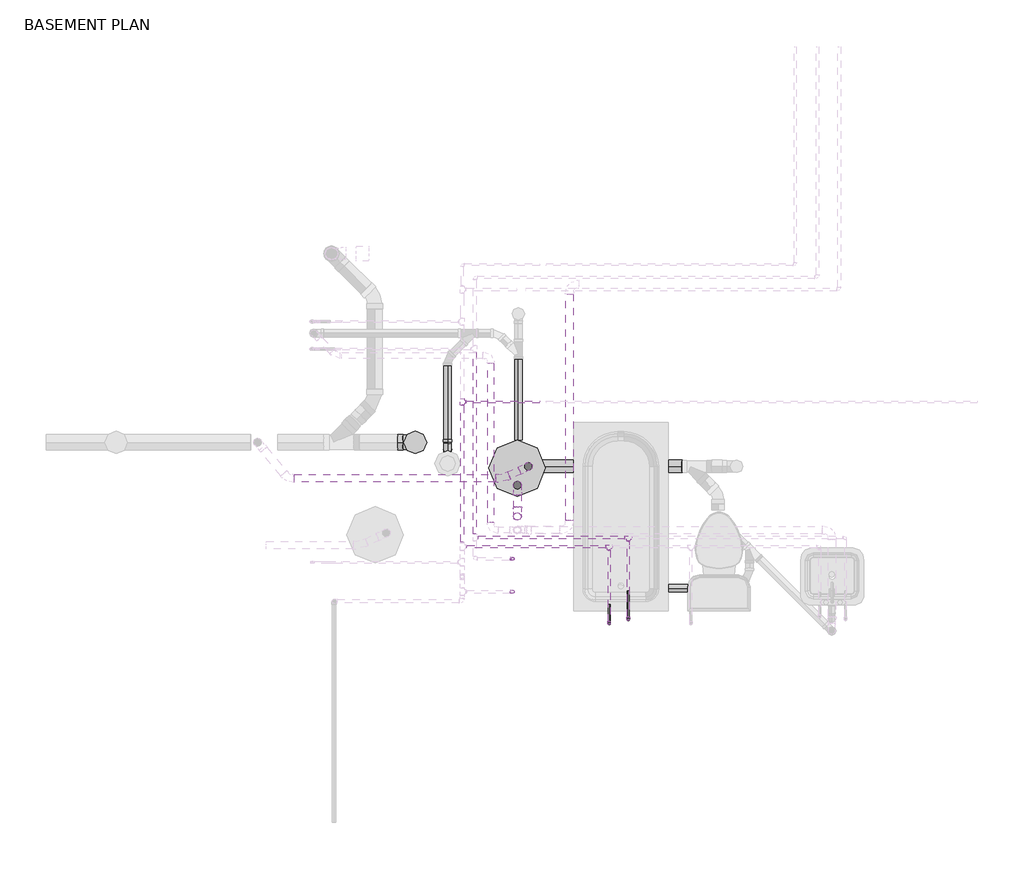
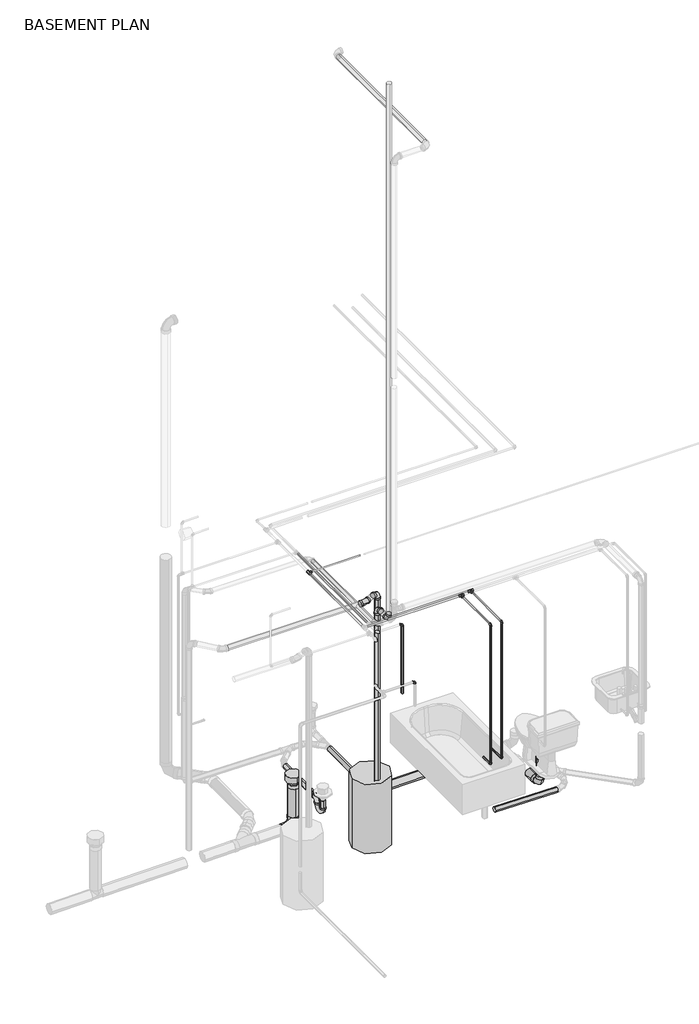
# One storey, part 3 of 6: 28 pipe segments, 21 pipe fittings, 1 proxy.
"""IFC4 building model written with IfcOpenShell, lengths in millimetres."""

from ifc_helpers import new_model, si_unit, point, frame, frame_2d, origin, place, context, project, spatial, circle_curve, trimmed, segment, composite_curve, outline, extrude, transform, mapped, element, save
from components import elv280hv_71b66f3c, bend_pvc_sch_40_dwv_standard_23d7c334, bend_pvc_sch_40_dwv_standard_9345205b, bend_pvc_sch_40_dwv_standard_0e59f3f3, bend_pvc_sch_40_dwv_standard_0393334a, bend_pvc_sch_40_dwv_standard_cf73f651, bend_pvc_sch_40_dwv_standard_edfad06d, pipe_elbow_copper_k_feaaf02c, pipe_elbow_copper_k_aad62f2d, pipe_tee_copper_k_ee363fbf, pipe_transition_copper_k_859ff352, reducer_pvc_sch_40_dwv_standard_9e2ad0bf, reducer_pvc_sch_40_dwv_standard_230e9924, standard_8c31f35f

model = new_model("IFC4")

# Units and contexts
model_context = context("Model", 3, world=origin())
ifc_project = project(units=[si_unit("LENGTHUNIT", "METRE", prefix="MILLI")], contexts=[model_context])

# Site, building, storey
site = spatial("IfcSite", under=ifc_project)
building = spatial("IfcBuilding", under=site)
storey = spatial("IfcBuildingStorey", under=building, Name="BASEMENT PLAN", Elevation=-2743.2)

# Proxy
placement = place(None, origin())
elv280hv_shape = elv280hv_71b66f3c(model_context)
element("IfcBuildingElementProxy", 1, Name="Pump-Sump-Liberty-ELV_Series : ELV280HV", ObjectType="Pump-Sump-Liberty-ELV_Series : ELV280HV", at=placement, inside=storey, context=model_context, shape_type="MappedRepresentation", body=[
    mapped(elv280hv_shape, transform((13055.7813305, 5475.8384917, -3632.2), x_axis=(1.0, 0.0, 0.0), y_axis=(0.0, 1.0, 0.0), z_axis=(0.0, 0.0, 1.0))),
])

# Pipe fittings
bend_pvc_sch_40_dwv_standard_shape = bend_pvc_sch_40_dwv_standard_23d7c334(model_context)
element("IfcPipeFitting", 2, ObjectType="Bend - PVC - Sch 40 - DWV : Standard", at=placement, inside=storey, context=model_context, shape_type="MappedRepresentation", body=[
    mapped(bend_pvc_sch_40_dwv_standard_shape, transform((12232.8047807, 5618.9056862, -3266.4426869), x_axis=(0.9999457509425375, 0.0, 0.010416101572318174), y_axis=(-0.010416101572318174, 0.0, 0.9999457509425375), z_axis=(0.0, -1.0, 0.0))),
])
bend_pvc_sch_40_dwv_standard_2_shape = bend_pvc_sch_40_dwv_standard_9345205b(model_context)
element("IfcPipeFitting", 3, ObjectType="Bend - PVC - Sch 40 - DWV : Standard", at=placement, inside=storey, context=model_context, shape_type="MappedRepresentation", body=[
    mapped(bend_pvc_sch_40_dwv_standard_2_shape, transform((14676.5331398, 4629.1086514, -2974.330201), x_axis=(0.0, -0.9999457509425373, 0.010416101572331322), y_axis=(0.0, 0.010416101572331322, 0.9999457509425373), z_axis=(-1.0, 0.0, 0.0))),
])
bend_pvc_sch_40_dwv_standard_3_shape = bend_pvc_sch_40_dwv_standard_0e59f3f3(model_context)
element("IfcPipeFitting", 4, ObjectType="Bend - PVC - Sch 40 - DWV : Standard", at=placement, inside=storey, context=model_context, shape_type="MappedRepresentation", body=[
    mapped(bend_pvc_sch_40_dwv_standard_3_shape, transform((13056.4098972, 5020.1060788, -533.3879658), x_axis=(0.0, 0.0, -1.0), y_axis=(0.0, 1.0, 0.0), z_axis=(1.0, 0.0, 0.0))),
])
bend_pvc_sch_40_dwv_standard_4_shape = bend_pvc_sch_40_dwv_standard_0393334a(model_context)
element("IfcPipeFitting", 5, ObjectType="Bend - PVC - Sch 40 - DWV : Standard", at=placement, inside=storey, context=model_context, shape_type="MappedRepresentation", body=[
    mapped(bend_pvc_sch_40_dwv_standard_4_shape, transform((13056.4099046, 5272.5058862, -533.4270071), x_axis=(-1.7637045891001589e-06, -1.7637045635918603e-06, 0.9999999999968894), y_axis=(2.759208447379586e-10, -0.9999999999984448, -1.7637045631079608e-06), z_axis=(0.9999999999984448, 2.728101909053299e-10, 1.7637045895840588e-06))),
])
bend_pvc_sch_40_dwv_standard_5_shape = bend_pvc_sch_40_dwv_standard_cf73f651(model_context)
element("IfcPipeFitting", 6, ObjectType="Bend - PVC - Sch 40 - DWV : Standard", at=placement, inside=storey, context=model_context, shape_type="MappedRepresentation", body=[
    mapped(bend_pvc_sch_40_dwv_standard_5_shape, transform((13144.6632199, 5423.789234, -457.1849034), x_axis=(-1.937238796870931e-07, 1.9372386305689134e-07, 0.9999999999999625), y_axis=(-0.9063077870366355, -0.4226182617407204, -9.37022184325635e-08), z_axis=(0.42261826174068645, -0.9063077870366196, 2.5744469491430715e-07))),
])
bend_pvc_sch_40_dwv_standard_6_shape = bend_pvc_sch_40_dwv_standard_edfad06d(model_context)
element("IfcPipeFitting", 7, ObjectType="Bend - PVC - Sch 40 - DWV : Standard", at=placement, inside=storey, context=model_context, shape_type="MappedRepresentation", body=[
    mapped(bend_pvc_sch_40_dwv_standard_6_shape, transform((12937.4812748, 5327.1786843, -457.1849034), x_axis=(0.9999999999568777, 0.0, 9.286796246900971e-06), y_axis=(1.8495204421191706e-10, 0.9999999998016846, -1.9915591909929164e-05), z_axis=(-9.286796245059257e-06, 1.991559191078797e-05, 0.9999999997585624))),
])
pipe_elbow_copper_k_shape = pipe_elbow_copper_k_feaaf02c(model_context)
element("IfcPipeFitting", 8, ObjectType="Pipe Elbow : Copper- K", at=placement, inside=storey, context=model_context, shape_type="MappedRepresentation", body=[
    mapped(pipe_elbow_copper_k_shape, transform((13018.3254798, 4411.6327443, -951.8226445), x_axis=(1.0, 0.0, 0.0), y_axis=(0.0, 0.0, -1.0), z_axis=(0.0, 1.0, 0.0))),
])
element("IfcPipeFitting", 9, ObjectType="Pipe Elbow : Copper- K", at=placement, inside=storey, context=model_context, shape_type="MappedRepresentation", body=[
    mapped(pipe_elbow_copper_k_shape, transform((13018.3254798, 4677.7551356, -372.5523585), x_axis=(1.0, 0.0, 0.0), y_axis=(0.0, 0.0, -1.0), z_axis=(0.0, 1.0, 0.0))),
])
pipe_elbow_copper_k_2_shape = pipe_elbow_copper_k_aad62f2d(model_context)
element("IfcPipeFitting", 10, ObjectType="Pipe Elbow : Copper- K", at=placement, inside=storey, context=model_context, shape_type="MappedRepresentation", body=[
    mapped(pipe_elbow_copper_k_2_shape, transform((13797.1203863, 4155.9493491, -2133.6), x_axis=(0.0, 0.0, -1.0), y_axis=(0.0, 1.0, 0.0), z_axis=(1.0, 0.0, 0.0))),
])
element("IfcPipeFitting", 11, ObjectType="Pipe Elbow : Copper- K", at=placement, inside=storey, context=model_context, shape_type="MappedRepresentation", body=[
    mapped(pipe_elbow_copper_k_2_shape, transform((13951.7754798, 4189.6281655, -2133.6), x_axis=(0.0, 0.0, -1.0), y_axis=(0.0, 1.0, 0.0), z_axis=(1.0, 0.0, 0.0))),
])
element("IfcPipeFitting", 12, ObjectType="Pipe Elbow : Copper- K", at=placement, inside=storey, context=model_context, shape_type="MappedRepresentation", body=[
    mapped(pipe_elbow_copper_k_2_shape, transform((13951.7754798, 4189.6281655, -372.5523585), x_axis=(0.0, 0.0, 1.0), y_axis=(0.0, 1.0, 0.0), z_axis=(-1.0, 0.0, 0.0))),
])
element("IfcPipeFitting", 13, ObjectType="Pipe Elbow : Copper- K", at=placement, inside=storey, context=model_context, shape_type="MappedRepresentation", body=[
    mapped(pipe_elbow_copper_k_2_shape, transform((13797.1203863, 4155.9493491, -334.4523585), x_axis=(0.0, 0.0, 1.0), y_axis=(0.0, 1.0, 0.0), z_axis=(-1.0, 0.0, 0.0))),
])
pipe_tee_copper_k_shape = pipe_tee_copper_k_ee363fbf(model_context)
element("IfcPipeFitting", 14, ObjectType="Pipe Tee : Copper- K", at=placement, inside=storey, context=model_context, shape_type="MappedRepresentation", body=[
    mapped(pipe_tee_copper_k_shape, transform((13951.7754798, 4850.0281655, -372.5523585), x_axis=(-1.0, 0.0, 0.0), y_axis=(0.0, 1.0, 0.0), z_axis=(0.0, 0.0, -1.0))),
])
element("IfcPipeFitting", 15, ObjectType="Pipe Tee : Copper- K", at=placement, inside=storey, context=model_context, shape_type="MappedRepresentation", body=[
    mapped(pipe_tee_copper_k_shape, transform((13797.1203863, 4776.6618491, -334.4523585), x_axis=(-1.0, 0.0, 0.0), y_axis=(0.0, 1.0, 0.0), z_axis=(0.0, 0.0, -1.0))),
])
element("IfcPipeFitting", 16, ObjectType="Pipe Tee : Copper- K", at=placement, inside=storey, context=model_context, shape_type="MappedRepresentation", body=[
    mapped(pipe_tee_copper_k_shape, transform((12611.9254798, 5945.0618491, -334.4523585), x_axis=(0.0, -1.0, 0.0), y_axis=(-1.0, 0.0, 0.0), z_axis=(0.0, 0.0, -1.0))),
])
pipe_transition_copper_k_shape = pipe_transition_copper_k_859ff352(model_context)
element("IfcPipeFitting", 17, ObjectType="Pipe Transition : Copper- K", at=placement, inside=storey, context=model_context, shape_type="MappedRepresentation", body=[
    mapped(pipe_transition_copper_k_shape, transform((13951.7754798, 4823.0406655, -372.5523585), x_axis=(0.0, -1.0, 0.0), y_axis=(1.0, 0.0, 0.0), z_axis=(0.0, 0.0, 1.0))),
])
element("IfcPipeFitting", 18, ObjectType="Pipe Transition : Copper- K", at=placement, inside=storey, context=model_context, shape_type="MappedRepresentation", body=[
    mapped(pipe_transition_copper_k_shape, transform((13797.1203863, 4749.6743491, -334.4523585), x_axis=(0.0, -1.0, 0.0), y_axis=(1.0, 0.0, 0.0), z_axis=(0.0, 0.0, 1.0))),
])
element("IfcPipeFitting", 19, ObjectType="Pipe Transition : Copper- K", at=placement, inside=storey, context=model_context, shape_type="MappedRepresentation", body=[
    mapped(pipe_transition_copper_k_shape, transform((12638.9129798, 5945.0618491, -334.4523585), x_axis=(1.0, 0.0, 0.0), y_axis=(0.0, 1.0, 0.0), z_axis=(0.0, 0.0, 1.0))),
])
reducer_pvc_sch_40_dwv_standard_shape = reducer_pvc_sch_40_dwv_standard_9e2ad0bf(model_context)
element("IfcPipeFitting", 20, ObjectType="Reducer - PVC - Sch 40 - DWV : Standard", at=placement, inside=storey, context=model_context, shape_type="MappedRepresentation", body=[
    mapped(reducer_pvc_sch_40_dwv_standard_shape, transform((12232.8047807, 5618.9056862, -2756.7929688), x_axis=(0.0, 0.0, 1.0), y_axis=(-1.0, 0.0, 0.0), z_axis=(0.0, -1.0, 0.0))),
])
reducer_pvc_sch_40_dwv_standard_2_shape = reducer_pvc_sch_40_dwv_standard_230e9924(model_context)
element("IfcPipeFitting", 21, ObjectType="Reducer - PVC - Sch 40 - DWV : Standard", at=placement, inside=storey, context=model_context, shape_type="MappedRepresentation", body=[
    mapped(reducer_pvc_sch_40_dwv_standard_2_shape, transform((13144.6637017, 5423.7887522, -2994.2084886), x_axis=(0.0, 0.0, 1.0), y_axis=(-1.0, 0.0, 0.0), z_axis=(0.0, -1.0, 0.0))),
])
standard_shape = standard_8c31f35f(model_context)
element("IfcPipeFitting", 22, ObjectType="GES P TRAP PVC Sch 40 - DWV : Standard", at=placement, inside=storey, context=model_context, shape_type="MappedRepresentation", body=[
    mapped(standard_shape, transform((12494.0713934, 5448.3128175, -2962.795389), x_axis=(0.0, 0.0, -1.0), y_axis=(-7.342484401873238e-06, -0.999999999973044, 0.0), z_axis=(-0.999999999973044, 7.342484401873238e-06, 0.0))),
])

# Pipe segments
element("IfcPipeSegment", 23, ObjectType="Cast Iron - SAN/STORM", at=placement, inside=storey, context=model_context, shape_type="SweptSolid", body=[
    extrude(outline(composite_curve([segment(trimmed(circle_curve(frame_2d((12232.8047807, 5618.9056862)), 61.11875), [point((12171.6860307, 5618.9056862))], [point((12232.8047807, 5680.0244362))], False, "CARTESIAN"), True, "CONTINUOUS"), segment(trimmed(circle_curve(frame_2d((12232.8047807, 5618.9056862)), 61.11875), [point((12232.8047807, 5680.0244362))], [point((12293.9235307, 5618.9056862))], False, "CARTESIAN"), True, "CONTINUOUS"), segment(trimmed(circle_curve(frame_2d((12232.8047807, 5618.9056862)), 61.11875), [point((12293.9235307, 5618.9056862))], [point((12232.8047807, 5557.7869362))], False, "CARTESIAN"), True, "CONTINUOUS"), segment(trimmed(circle_curve(frame_2d((12232.8047807, 5618.9056862)), 61.11875), [point((12232.8047807, 5557.7869362))], [point((12171.6860307, 5618.9056862))], False, "CARTESIAN"), True, "CONTINUOUS")], self_intersect=False)), frame((0.0, 0.0, -3123.5676869), z_axis=(0.0, 0.0, 1.0), x_axis=(1.0, 0.0, 0.0)), (0.0, 0.0, 1.0), 366.7747181),
])
element("IfcPipeSegment", 24, ObjectType="Cast Iron - SAN/STORM", at=placement, inside=storey, context=model_context, shape_type="SweptSolid", body=[
    extrude(outline(composite_curve([segment(trimmed(circle_curve(frame_2d((0.0, -30.1625)), 30.1625), [point((-30.1625, -30.1625))], [point((0.0, 0.0))], False, "CARTESIAN"), True, "CONTINUOUS"), segment(trimmed(circle_curve(frame_2d((0.0, -30.1625)), 30.1625), [point((0.0, 0.0))], [point((30.1625, -30.1625))], False, "CARTESIAN"), True, "CONTINUOUS"), segment(trimmed(circle_curve(frame_2d((0.0, -30.1625)), 30.1625), [point((30.1625, -30.1625))], [point((0.0, -60.325))], False, "CARTESIAN"), True, "CONTINUOUS"), segment(trimmed(circle_curve(frame_2d((0.0, -30.1625)), 30.1625), [point((0.0, -60.325))], [point((-30.1625, -30.1625))], False, "CARTESIAN"), True, "CONTINUOUS")], self_intersect=False)), frame((13065.0696207, 5637.6330119, -3006.5032674), z_axis=(0.0, 0.9999457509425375, 0.010416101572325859), x_axis=(1.0, 0.0, 0.0)), (0.0, 0.0, 1.0), 653.0427747),
])
element("IfcPipeSegment", 25, ObjectType="Cast Iron - SAN/STORM", at=placement, inside=storey, context=model_context, shape_type="SweptSolid", body=[
    extrude(outline(composite_curve([segment(trimmed(circle_curve(frame_2d((0.0, 50.403125)), 50.403125), [point((-50.403125, 50.403125))], [point((0.0, 100.80625))], False, "CARTESIAN"), True, "CONTINUOUS"), segment(trimmed(circle_curve(frame_2d((0.0, 50.403125)), 50.403125), [point((0.0, 100.80625))], [point((50.403125, 50.403125))], False, "CARTESIAN"), True, "CONTINUOUS"), segment(trimmed(circle_curve(frame_2d((0.0, 50.403125)), 50.403125), [point((50.403125, 50.403125))], [point((0.0, 0.0))], False, "CARTESIAN"), True, "CONTINUOUS"), segment(trimmed(circle_curve(frame_2d((0.0, 50.403125)), 50.403125), [point((0.0, 0.0))], [point((-50.403125, 50.403125))], False, "CARTESIAN"), True, "CONTINUOUS")], self_intersect=False)), frame((14676.5331398, 4866.797313, -3027.211984), z_axis=(0.0, -0.9999457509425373, 0.010416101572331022), x_axis=(1.0, 0.0, 0.0)), (0.0, 0.0, 1.0), 122.3263892),
])
element("IfcPipeSegment", 26, ObjectType="Cast Iron - SAN/STORM", at=placement, inside=storey, context=model_context, shape_type="SweptSolid", body=[
    extrude(outline(composite_curve([segment(trimmed(circle_curve(frame_2d((0.0, 50.4031249)), 50.403125), [point((-50.403125, 50.4031247))], [point((-3e-07, 100.80625))], False, "CARTESIAN"), True, "CONTINUOUS"), segment(trimmed(circle_curve(frame_2d((0.0, 50.4031249)), 50.403125), [point((-3e-07, 100.80625))], [point((50.403125, 50.4031252))], False, "CARTESIAN"), True, "CONTINUOUS"), segment(trimmed(circle_curve(frame_2d((0.0, 50.4031249)), 50.403125), [point((50.403125, 50.4031252))], [point((2e-07, 0.0))], False, "CARTESIAN"), True, "CONTINUOUS"), segment(trimmed(circle_curve(frame_2d((0.0, 50.4031249)), 50.403125), [point((2e-07, 0.0))], [point((-50.403125, 50.4031247))], False, "CARTESIAN"), True, "CONTINUOUS")], self_intersect=False)), frame((14676.5331398, 4578.7055265, -2858.4317318), z_axis=(-0.00014245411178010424, -3.434001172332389e-05, 0.9999999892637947), x_axis=(0.9999999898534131, -4.891875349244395e-09, 0.00014245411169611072)), (0.0, 0.0, 1.0), 220.686813),
])
element("IfcPipeSegment", 27, ObjectType="Cast Iron - SAN/STORM", at=placement, inside=storey, context=model_context, shape_type="SweptSolid", body=[
    extrude(outline(composite_curve([segment(trimmed(circle_curve(frame_2d((0.0, -30.1625)), 30.1625), [point((0.0, -60.325))], [point((-30.1625, -30.1625))], False, "CARTESIAN"), True, "CONTINUOUS"), segment(trimmed(circle_curve(frame_2d((0.0, -30.1625)), 30.1625), [point((-30.1625, -30.1625))], [point((0.0, 0.0))], False, "CARTESIAN"), True, "CONTINUOUS"), segment(trimmed(circle_curve(frame_2d((0.0, -30.1625)), 30.1625), [point((0.0, 0.0))], [point((30.1625, -30.1625))], False, "CARTESIAN"), True, "CONTINUOUS"), segment(trimmed(circle_curve(frame_2d((0.0, -30.1625)), 30.1625), [point((30.1625, -30.1625))], [point((0.0, -60.325))], False, "CARTESIAN"), True, "CONTINUOUS")], self_intersect=False)), frame((14768.9046128, 4470.9160969, -2970.9991231), z_axis=(-0.9999500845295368, 0.0, 0.009991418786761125), x_axis=(0.009991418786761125, 0.0, 0.9999500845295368)), (0.0, 0.0, 1.0), 763.091778),
])
element("IfcPipeSegment", 28, ObjectType="Cast Iron - SAN/STORM", at=placement, inside=storey, context=model_context, shape_type="SweptSolid", body=[
    extrude(outline(composite_curve([segment(trimmed(circle_curve(frame_2d((0.0, 30.1625)), 30.1625), [point((-30.1625001, 30.1625))], [point((0.0, 60.325))], False, "CARTESIAN"), True, "CONTINUOUS"), segment(trimmed(circle_curve(frame_2d((0.0, 30.1625)), 30.1625), [point((0.0, 60.325))], [point((30.1625, 30.1625))], False, "CARTESIAN"), True, "CONTINUOUS"), segment(trimmed(circle_curve(frame_2d((0.0, 30.1625)), 30.1625), [point((30.1625, 30.1625))], [point((0.0, 0.0))], False, "CARTESIAN"), True, "CONTINUOUS"), segment(trimmed(circle_curve(frame_2d((0.0, 30.1625)), 30.1625), [point((0.0, 0.0))], [point((-30.1625001, 30.1625))], False, "CARTESIAN"), True, "CONTINUOUS")], self_intersect=False)), frame((12494.0713934, 5418.1503175, -3010.420389), z_axis=(-0.00015668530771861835, 0.0, 0.9999999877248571), x_axis=(0.9999999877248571, 0.0, 0.00015668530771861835)), (0.0, 0.0, 1.0), 92.5953902),
])
element("IfcPipeSegment", 29, ObjectType="Cast Iron - SAN/STORM", at=placement, inside=storey, context=model_context, shape_type="SweptSolid", body=[
    extrude(outline(composite_curve([segment(trimmed(circle_curve(frame_2d((0.0, 30.1625)), 30.1625), [point((0.0, 60.325))], [point((30.1625, 30.1625))], False, "CARTESIAN"), True, "CONTINUOUS"), segment(trimmed(circle_curve(frame_2d((0.0, 30.1625)), 30.1625), [point((30.1625, 30.1625))], [point((0.0, 0.0))], False, "CARTESIAN"), True, "CONTINUOUS"), segment(trimmed(circle_curve(frame_2d((0.0, 30.1625)), 30.1625), [point((0.0, 0.0))], [point((-30.1625, 30.1625))], False, "CARTESIAN"), True, "CONTINUOUS"), segment(trimmed(circle_curve(frame_2d((0.0, 30.1625)), 30.1625), [point((-30.1625, 30.1625))], [point((0.0, 60.325))], False, "CARTESIAN"), True, "CONTINUOUS")], self_intersect=False)), frame((12463.9103038, 5640.4005389, -2962.795389), z_axis=(7.34248438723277e-06, 0.999999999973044, 0.0), x_axis=(0.0, 0.0, 1.0)), (0.0, 0.0, 1.0), 597.9937716),
])
element("IfcPipeSegment", 30, ObjectType="Cast Iron - SAN/STORM", at=placement, inside=storey, context=model_context, shape_type="SweptSolid", body=[
    extrude(outline(composite_curve([segment(trimmed(circle_curve(frame_2d((0.0, -30.1625)), 30.1625), [point((-30.1624999, -30.1625))], [point((0.0, 0.0))], False, "CARTESIAN"), True, "CONTINUOUS"), segment(trimmed(circle_curve(frame_2d((0.0, -30.1625)), 30.1625), [point((0.0, 0.0))], [point((30.1625001, -30.1625))], False, "CARTESIAN"), True, "CONTINUOUS"), segment(trimmed(circle_curve(frame_2d((0.0, -30.1625)), 30.1625), [point((30.1625001, -30.1625))], [point((0.0, -60.325))], False, "CARTESIAN"), True, "CONTINUOUS"), segment(trimmed(circle_curve(frame_2d((0.0, -30.1625)), 30.1625), [point((0.0, -60.325))], [point((-30.1624999, -30.1625))], False, "CARTESIAN"), True, "CONTINUOUS")], self_intersect=False)), frame((12989.2767616, 5351.3313249, -487.3474034), z_axis=(0.9063077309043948, 0.42261838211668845, 0.0), x_axis=(0.42261838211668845, -0.9063077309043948, 0.0)), (0.0, 0.0, 1.0), 93.6497927),
])
element("IfcPipeSegment", 31, ObjectType="Cast Iron - SAN/STORM", at=placement, inside=storey, context=model_context, shape_type="SweptSolid", body=[
    extrude(outline(composite_curve([segment(trimmed(circle_curve(frame_2d((0.0, 30.1625)), 30.1625), [point((-30.1625, 30.1625))], [point((0.0, 60.325))], False, "CARTESIAN"), True, "CONTINUOUS"), segment(trimmed(circle_curve(frame_2d((0.0, 30.1625)), 30.1625), [point((0.0, 60.325))], [point((30.1625, 30.1625))], False, "CARTESIAN"), True, "CONTINUOUS"), segment(trimmed(circle_curve(frame_2d((0.0, 30.1625)), 30.1625), [point((30.1625, 30.1625))], [point((0.0, 0.0))], False, "CARTESIAN"), True, "CONTINUOUS"), segment(trimmed(circle_curve(frame_2d((0.0, 30.1625)), 30.1625), [point((0.0, 0.0))], [point((-30.1625, 30.1625))], False, "CARTESIAN"), True, "CONTINUOUS")], self_intersect=False)), frame((13144.6637017, 5393.6262522, -2944.2212828), z_axis=(-1.9372387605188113e-07, 1.9372386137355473e-07, 0.9999999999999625), x_axis=(0.9999999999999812, 0.0, 1.937238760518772e-07)), (0.0, 0.0, 1.0), 2409.2361853),
])
element("IfcPipeSegment", 32, ObjectType="Cast Iron - SAN/STORM", at=placement, inside=storey, context=model_context, shape_type="SweptSolid", body=[
    extrude(outline(composite_curve([segment(trimmed(circle_curve(frame_2d((0.0, -50.403125)), 50.403125), [point((0.0, 0.0))], [point((50.4031249, -50.403125))], False, "CARTESIAN"), True, "CONTINUOUS"), segment(trimmed(circle_curve(frame_2d((0.0, -50.403125)), 50.403125), [point((50.4031249, -50.403125))], [point((0.0, -100.80625))], False, "CARTESIAN"), True, "CONTINUOUS"), segment(trimmed(circle_curve(frame_2d((0.0, -50.403125)), 50.403125), [point((0.0, -100.80625))], [point((-50.403125, -50.403125))], False, "CARTESIAN"), True, "CONTINUOUS"), segment(trimmed(circle_curve(frame_2d((0.0, -50.403125)), 50.403125), [point((-50.403125, -50.403125))], [point((0.0, 0.0))], False, "CARTESIAN"), True, "CONTINUOUS")], self_intersect=False)), frame((13261.8329498, 5474.2019598, -2994.6864241), z_axis=(0.9999487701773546, 0.0, 0.010122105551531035), x_axis=(0.010122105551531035, 0.0, -0.9999487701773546)), (0.0, 0.0, 1.0), 1123.4600431),
])
element("IfcPipeSegment", 33, ObjectType="Cast Iron - SAN/STORM", at=placement, inside=storey, context=model_context, shape_type="SweptSolid", body=[
    extrude(outline(composite_curve([segment(trimmed(circle_curve(frame_2d((0.0, -30.1625)), 30.1625), [point((-30.1625, -30.1625))], [point((0.0, 0.0))], False, "CARTESIAN"), True, "CONTINUOUS"), segment(trimmed(circle_curve(frame_2d((0.0, -30.1625)), 30.1625), [point((0.0, 0.0))], [point((30.1625, -30.1625))], False, "CARTESIAN"), True, "CONTINUOUS"), segment(trimmed(circle_curve(frame_2d((0.0, -30.1625)), 30.1625), [point((30.1625, -30.1625))], [point((0.0, -60.325))], False, "CARTESIAN"), True, "CONTINUOUS"), segment(trimmed(circle_curve(frame_2d((0.0, -30.1625)), 30.1625), [point((0.0, -60.325))], [point((-30.1625, -30.1625))], False, "CARTESIAN"), True, "CONTINUOUS")], self_intersect=False)), frame((11257.7160834, 5327.1786843, -487.3620134), z_axis=(0.9999999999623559, 0.0, 8.676883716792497e-06), x_axis=(0.0, -1.0, 0.0)), (0.0, 0.0, 1.0), 1622.6154532),
])
element("IfcPipeSegment", 34, ObjectType="Copper", at=placement, inside=storey, context=model_context, shape_type="SweptSolid", body=[
    extrude(outline(composite_curve([segment(trimmed(circle_curve(frame_2d((13018.3254798, 4677.7551356)), 11.1125), [point((13007.2129798, 4677.7551356))], [point((13018.3254798, 4688.8676356))], False, "CARTESIAN"), True, "CONTINUOUS"), segment(trimmed(circle_curve(frame_2d((13018.3254798, 4677.7551356)), 11.1125), [point((13018.3254798, 4688.8676356))], [point((13029.4379798, 4677.7551356))], False, "CARTESIAN"), True, "CONTINUOUS"), segment(trimmed(circle_curve(frame_2d((13018.3254798, 4677.7551356)), 11.1125), [point((13029.4379798, 4677.7551356))], [point((13018.3254798, 4666.6426356))], False, "CARTESIAN"), True, "CONTINUOUS"), segment(trimmed(circle_curve(frame_2d((13018.3254798, 4677.7551356)), 11.1125), [point((13018.3254798, 4666.6426356))], [point((13007.2129798, 4677.7551356))], False, "CARTESIAN"), True, "CONTINUOUS")], self_intersect=False)), frame((0.0, 0.0, -1261.385253), z_axis=(0.0, 0.0, 1.0), x_axis=(1.0, 0.0, 0.0)), (0.0, 0.0, 1.0), 868.1953945),
])
element("IfcPipeSegment", 35, ObjectType="Copper", at=placement, inside=storey, context=model_context, shape_type="SweptSolid", body=[
    extrude(outline(composite_curve([segment(trimmed(circle_curve(frame_2d((-334.4523585, 13797.1203863)), 7.9375), [point((-334.4523585, 13789.1828863))], [point((-342.3898585, 13797.1203863))], False, "CARTESIAN"), True, "CONTINUOUS"), segment(trimmed(circle_curve(frame_2d((-334.4523585, 13797.1203863)), 7.9375), [point((-342.3898585, 13797.1203863))], [point((-334.4523585, 13805.0578863))], False, "CARTESIAN"), True, "CONTINUOUS"), segment(trimmed(circle_curve(frame_2d((-334.4523585, 13797.1203863)), 7.9375), [point((-334.4523585, 13805.0578863))], [point((-326.5148585, 13797.1203863))], False, "CARTESIAN"), True, "CONTINUOUS"), segment(trimmed(circle_curve(frame_2d((-334.4523585, 13797.1203863)), 7.9375), [point((-326.5148585, 13797.1203863))], [point((-334.4523585, 13789.1828863))], False, "CARTESIAN"), True, "CONTINUOUS")], self_intersect=False)), frame((0.0, 4173.4118491, 0.0), z_axis=(0.0, 1.0, 0.0), x_axis=(0.0, 0.0, 1.0)), (0.0, 0.0, 1.0), 570.70625),
])
element("IfcPipeSegment", 36, ObjectType="Copper", at=placement, inside=storey, context=model_context, shape_type="SweptSolid", body=[
    extrude(outline(composite_curve([segment(trimmed(circle_curve(frame_2d((-2133.6, 13797.1203863)), 7.9375), [point((-2133.6, 13805.0578863))], [point((-2125.6625, 13797.1203863))], False, "CARTESIAN"), True, "CONTINUOUS"), segment(trimmed(circle_curve(frame_2d((-2133.6, 13797.1203863)), 7.9375), [point((-2125.6625, 13797.1203863))], [point((-2133.6, 13789.1828863))], False, "CARTESIAN"), True, "CONTINUOUS"), segment(trimmed(circle_curve(frame_2d((-2133.6, 13797.1203863)), 7.9375), [point((-2133.6, 13789.1828863))], [point((-2141.5375, 13797.1203863))], False, "CARTESIAN"), True, "CONTINUOUS"), segment(trimmed(circle_curve(frame_2d((-2133.6, 13797.1203863)), 7.9375), [point((-2141.5375, 13797.1203863))], [point((-2133.6, 13805.0578863))], False, "CARTESIAN"), True, "CONTINUOUS")], self_intersect=False)), frame((0.0, 4173.4118491, 0.0), z_axis=(0.0, 1.0, 0.0), x_axis=(0.0, 0.0, 1.0)), (0.0, 0.0, 1.0), 134.9375),
])
element("IfcPipeSegment", 37, ObjectType="Copper", at=placement, inside=storey, context=model_context, shape_type="SweptSolid", body=[
    extrude(outline(composite_curve([segment(trimmed(circle_curve(frame_2d((13797.1203863, 4155.9493491)), 7.9375), [point((13805.0578863, 4155.9493491))], [point((13797.1203863, 4148.0118491))], False, "CARTESIAN"), True, "CONTINUOUS"), segment(trimmed(circle_curve(frame_2d((13797.1203863, 4155.9493491)), 7.9375), [point((13797.1203863, 4148.0118491))], [point((13789.1828863, 4155.9493491))], False, "CARTESIAN"), True, "CONTINUOUS"), segment(trimmed(circle_curve(frame_2d((13797.1203863, 4155.9493491)), 7.9375), [point((13789.1828863, 4155.9493491))], [point((13797.1203863, 4163.8868491))], False, "CARTESIAN"), True, "CONTINUOUS"), segment(trimmed(circle_curve(frame_2d((13797.1203863, 4155.9493491)), 7.9375), [point((13797.1203863, 4163.8868491))], [point((13805.0578863, 4155.9493491))], False, "CARTESIAN"), True, "CONTINUOUS")], self_intersect=False)), frame((0.0, 0.0, -2116.1375), z_axis=(0.0, 0.0, 1.0), x_axis=(1.0, 0.0, 0.0)), (0.0, 0.0, 1.0), 1764.2226415),
])
element("IfcPipeSegment", 38, ObjectType="Copper", at=placement, inside=storey, context=model_context, shape_type="SweptSolid", body=[
    extrude(outline(composite_curve([segment(trimmed(circle_curve(frame_2d((-372.5523585, 13951.7754798)), 7.9375), [point((-372.5523585, 13943.8379798))], [point((-380.4898585, 13951.7754798))], False, "CARTESIAN"), True, "CONTINUOUS"), segment(trimmed(circle_curve(frame_2d((-372.5523585, 13951.7754798)), 7.9375), [point((-380.4898585, 13951.7754798))], [point((-372.5523585, 13959.7129798))], False, "CARTESIAN"), True, "CONTINUOUS"), segment(trimmed(circle_curve(frame_2d((-372.5523585, 13951.7754798)), 7.9375), [point((-372.5523585, 13959.7129798))], [point((-364.6148585, 13951.7754798))], False, "CARTESIAN"), True, "CONTINUOUS"), segment(trimmed(circle_curve(frame_2d((-372.5523585, 13951.7754798)), 7.9375), [point((-364.6148585, 13951.7754798))], [point((-372.5523585, 13943.8379798))], False, "CARTESIAN"), True, "CONTINUOUS")], self_intersect=False)), frame((0.0, 4207.0906655, 0.0), z_axis=(0.0, 1.0, 0.0), x_axis=(0.0, 0.0, 1.0)), (0.0, 0.0, 1.0), 610.39375),
])
element("IfcPipeSegment", 39, ObjectType="Copper", at=placement, inside=storey, context=model_context, shape_type="SweptSolid", body=[
    extrude(outline(composite_curve([segment(trimmed(circle_curve(frame_2d((-2133.6, 13951.7754798)), 7.9375), [point((-2133.6, 13959.7129798))], [point((-2125.6625, 13951.7754798))], False, "CARTESIAN"), True, "CONTINUOUS"), segment(trimmed(circle_curve(frame_2d((-2133.6, 13951.7754798)), 7.9375), [point((-2125.6625, 13951.7754798))], [point((-2133.6, 13943.8379798))], False, "CARTESIAN"), True, "CONTINUOUS"), segment(trimmed(circle_curve(frame_2d((-2133.6, 13951.7754798)), 7.9375), [point((-2133.6, 13943.8379798))], [point((-2141.5375, 13951.7754798))], False, "CARTESIAN"), True, "CONTINUOUS"), segment(trimmed(circle_curve(frame_2d((-2133.6, 13951.7754798)), 7.9375), [point((-2141.5375, 13951.7754798))], [point((-2133.6, 13959.7129798))], False, "CARTESIAN"), True, "CONTINUOUS")], self_intersect=False)), frame((0.0, 4207.0906655, 0.0), z_axis=(0.0, 1.0, 0.0), x_axis=(0.0, 0.0, 1.0)), (0.0, 0.0, 1.0), 211.1375),
])
element("IfcPipeSegment", 40, ObjectType="Copper", at=placement, inside=storey, context=model_context, shape_type="SweptSolid", body=[
    extrude(outline(composite_curve([segment(trimmed(circle_curve(frame_2d((13951.7754798, 4189.6281655)), 7.9375), [point((13959.7129798, 4189.6281655))], [point((13951.7754798, 4181.6906655))], False, "CARTESIAN"), True, "CONTINUOUS"), segment(trimmed(circle_curve(frame_2d((13951.7754798, 4189.6281655)), 7.9375), [point((13951.7754798, 4181.6906655))], [point((13943.8379798, 4189.6281655))], False, "CARTESIAN"), True, "CONTINUOUS"), segment(trimmed(circle_curve(frame_2d((13951.7754798, 4189.6281655)), 7.9375), [point((13943.8379798, 4189.6281655))], [point((13951.7754798, 4197.5656655))], False, "CARTESIAN"), True, "CONTINUOUS"), segment(trimmed(circle_curve(frame_2d((13951.7754798, 4189.6281655)), 7.9375), [point((13951.7754798, 4197.5656655))], [point((13959.7129798, 4189.6281655))], False, "CARTESIAN"), True, "CONTINUOUS")], self_intersect=False)), frame((0.0, 0.0, -2116.1375), z_axis=(0.0, 0.0, 1.0), x_axis=(1.0, 0.0, 0.0)), (0.0, 0.0, 1.0), 1726.1226415),
])
element("IfcPipeSegment", 41, ObjectType="Copper", at=placement, inside=storey, context=model_context, shape_type="SweptSolid", body=[
    extrude(outline(composite_curve([segment(trimmed(circle_curve(frame_2d((4850.0281655, -372.5523585)), 11.1125), [point((4838.9156655, -372.5523585))], [point((4850.0281655, -361.4398585))], False, "CARTESIAN"), True, "CONTINUOUS"), segment(trimmed(circle_curve(frame_2d((4850.0281655, -372.5523585)), 11.1125), [point((4850.0281655, -361.4398585))], [point((4861.1406655, -372.5523585))], False, "CARTESIAN"), True, "CONTINUOUS"), segment(trimmed(circle_curve(frame_2d((4850.0281655, -372.5523585)), 11.1125), [point((4861.1406655, -372.5523585))], [point((4850.0281655, -383.6648585))], False, "CARTESIAN"), True, "CONTINUOUS"), segment(trimmed(circle_curve(frame_2d((4850.0281655, -372.5523585)), 11.1125), [point((4850.0281655, -383.6648585))], [point((4838.9156655, -372.5523585))], False, "CARTESIAN"), True, "CONTINUOUS")], self_intersect=False)), frame((12740.5129798, 0.0, 0.0), z_axis=(1.0, 0.0, 0.0), x_axis=(0.0, 1.0, 0.0)), (0.0, 0.0, 1.0), 1184.275),
])
element("IfcPipeSegment", 42, ObjectType="Copper", at=placement, inside=storey, context=model_context, shape_type="SweptSolid", body=[
    extrude(outline(composite_curve([segment(trimmed(circle_curve(frame_2d((4776.6618491, -334.4523585)), 11.1125), [point((4765.5493491, -334.4523585))], [point((4776.6618491, -323.3398585))], False, "CARTESIAN"), True, "CONTINUOUS"), segment(trimmed(circle_curve(frame_2d((4776.6618491, -334.4523585)), 11.1125), [point((4776.6618491, -323.3398585))], [point((4787.7743491, -334.4523585))], False, "CARTESIAN"), True, "CONTINUOUS"), segment(trimmed(circle_curve(frame_2d((4776.6618491, -334.4523585)), 11.1125), [point((4787.7743491, -334.4523585))], [point((4776.6618491, -345.5648585))], False, "CARTESIAN"), True, "CONTINUOUS"), segment(trimmed(circle_curve(frame_2d((4776.6618491, -334.4523585)), 11.1125), [point((4776.6618491, -345.5648585))], [point((4765.5493491, -334.4523585))], False, "CARTESIAN"), True, "CONTINUOUS")], self_intersect=False)), frame((12649.2317298, 0.0, 0.0), z_axis=(1.0, 0.0, 0.0), x_axis=(0.0, 1.0, 0.0)), (0.0, 0.0, 1.0), 1120.9011565),
])
element("IfcPipeSegment", 43, ObjectType="Copper", at=placement, inside=storey, context=model_context, shape_type="SweptSolid", body=[
    extrude(outline(composite_curve([segment(trimmed(circle_curve(frame_2d((-372.5523585, 12713.5254798)), 11.1125), [point((-372.5523585, 12724.6379798))], [point((-361.4398585, 12713.5254798))], False, "CARTESIAN"), True, "CONTINUOUS"), segment(trimmed(circle_curve(frame_2d((-372.5523585, 12713.5254798)), 11.1125), [point((-361.4398585, 12713.5254798))], [point((-372.5523585, 12702.4129798))], False, "CARTESIAN"), True, "CONTINUOUS"), segment(trimmed(circle_curve(frame_2d((-372.5523585, 12713.5254798)), 11.1125), [point((-372.5523585, 12702.4129798))], [point((-383.6648585, 12713.5254798))], False, "CARTESIAN"), True, "CONTINUOUS"), segment(trimmed(circle_curve(frame_2d((-372.5523585, 12713.5254798)), 11.1125), [point((-383.6648585, 12713.5254798))], [point((-372.5523585, 12724.6379798))], False, "CARTESIAN"), True, "CONTINUOUS")], self_intersect=False)), frame((0.0, 4877.0156655, 0.0), z_axis=(0.0, 1.0, 0.0), x_axis=(0.0, 0.0, 1.0)), (0.0, 0.0, 1.0), 1469.0923418),
])
element("IfcPipeSegment", 44, ObjectType="Copper", at=placement, inside=storey, context=model_context, shape_type="SweptSolid", body=[
    extrude(outline(composite_curve([segment(trimmed(circle_curve(frame_2d((-334.4523585, 12611.9254798)), 11.1125), [point((-334.4523585, 12623.0379798))], [point((-323.3398585, 12611.9254798))], False, "CARTESIAN"), True, "CONTINUOUS"), segment(trimmed(circle_curve(frame_2d((-334.4523585, 12611.9254798)), 11.1125), [point((-323.3398585, 12611.9254798))], [point((-334.4523585, 12600.8129798))], False, "CARTESIAN"), True, "CONTINUOUS"), segment(trimmed(circle_curve(frame_2d((-334.4523585, 12611.9254798)), 11.1125), [point((-334.4523585, 12600.8129798))], [point((-345.5648585, 12611.9254798))], False, "CARTESIAN"), True, "CONTINUOUS"), segment(trimmed(circle_curve(frame_2d((-334.4523585, 12611.9254798)), 11.1125), [point((-345.5648585, 12611.9254798))], [point((-334.4523585, 12623.0379798))], False, "CARTESIAN"), True, "CONTINUOUS")], self_intersect=False)), frame((0.0, 4813.9680991, 0.0), z_axis=(0.0, 1.0, 0.0), x_axis=(0.0, 0.0, 1.0)), (0.0, 0.0, 1.0), 1104.10625),
])
element("IfcPipeSegment", 45, ObjectType="Copper", at=placement, inside=storey, context=model_context, shape_type="SweptSolid", body=[
    extrude(outline(composite_curve([segment(trimmed(circle_curve(frame_2d((5945.0618491, -334.4523585)), 7.9375), [point((5937.1243491, -334.4523585))], [point((5945.0618491, -326.5148585))], False, "CARTESIAN"), True, "CONTINUOUS"), segment(trimmed(circle_curve(frame_2d((5945.0618491, -334.4523585)), 7.9375), [point((5945.0618491, -326.5148585))], [point((5952.9993491, -334.4523585))], False, "CARTESIAN"), True, "CONTINUOUS"), segment(trimmed(circle_curve(frame_2d((5945.0618491, -334.4523585)), 7.9375), [point((5952.9993491, -334.4523585))], [point((5945.0618491, -342.3898585))], False, "CARTESIAN"), True, "CONTINUOUS"), segment(trimmed(circle_curve(frame_2d((5945.0618491, -334.4523585)), 7.9375), [point((5945.0618491, -342.3898585))], [point((5937.1243491, -334.4523585))], False, "CARTESIAN"), True, "CONTINUOUS")], self_intersect=False)), frame((12644.4692298, 0.0, 0.0), z_axis=(1.0, 0.0, 0.0), x_axis=(0.0, 1.0, 0.0)), (0.0, 0.0, 1.0), 591.17632),
])
element("IfcPipeSegment", 46, ObjectType="PVC - VENT", at=placement, inside=storey, context=model_context, shape_type="SweptSolid", body=[
    extrude(outline(composite_curve([segment(trimmed(circle_curve(frame_2d((0.0, 30.1625)), 30.1625), [point((-30.1625, 30.1625))], [point((0.0, 60.325))], False, "CARTESIAN"), True, "CONTINUOUS"), segment(trimmed(circle_curve(frame_2d((0.0, 30.1625)), 30.1625), [point((0.0, 60.325))], [point((30.1625, 30.1625))], False, "CARTESIAN"), True, "CONTINUOUS"), segment(trimmed(circle_curve(frame_2d((0.0, 30.1625)), 30.1625), [point((30.1625, 30.1625))], [point((0.0, 0.0))], False, "CARTESIAN"), True, "CONTINUOUS"), segment(trimmed(circle_curve(frame_2d((0.0, 30.1625)), 30.1625), [point((0.0, 0.0))], [point((-30.1625, 30.1625))], False, "CARTESIAN"), True, "CONTINUOUS")], self_intersect=False)), frame((13056.4143844, 5242.347866, -3073.4058569), z_axis=(-1.7637045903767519e-06, -1.7637045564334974e-06, 0.9999999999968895), x_axis=(0.9999999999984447, -3.1121771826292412e-12, 1.7637045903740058e-06)), (0.0, 0.0, 1.0), 2462.1785966),
])
element("IfcPipeSegment", 47, ObjectType="PVC - VENT", at=placement, inside=storey, context=model_context, shape_type="SweptSolid", body=[
    extrude(outline(composite_curve([segment(trimmed(circle_curve(frame_2d((0.0, -30.1625)), 30.1625), [point((0.0, -60.325))], [point((-30.1625, -30.1625))], False, "CARTESIAN"), True, "CONTINUOUS"), segment(trimmed(circle_curve(frame_2d((0.0, -30.1625)), 30.1625), [point((-30.1625, -30.1625))], [point((0.0, 0.0))], False, "CARTESIAN"), True, "CONTINUOUS"), segment(trimmed(circle_curve(frame_2d((0.0, -30.1625)), 30.1625), [point((0.0, 0.0))], [point((30.1625001, -30.1625))], False, "CARTESIAN"), True, "CONTINUOUS"), segment(trimmed(circle_curve(frame_2d((0.0, -30.1625)), 30.1625), [point((30.1625001, -30.1625))], [point((0.0, -60.325))], False, "CARTESIAN"), True, "CONTINUOUS")], self_intersect=False)), frame((13026.2474046, 5194.7056894, -533.414973), z_axis=(-7.630887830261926e-08, -0.9999999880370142, 0.00015468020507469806), x_axis=(1.1802114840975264e-11, 0.0001546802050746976, 0.9999999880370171)), (0.0, 0.0, 1.0), 96.7994104),
])
element("IfcPipeSegment", 48, ObjectType="PVC - VENT", at=placement, inside=storey, context=model_context, shape_type="SweptSolid", body=[
    extrude(outline(composite_curve([segment(trimmed(circle_curve(frame_2d((-457.1992725, 12840.5254798)), 24.13), [point((-457.1992725, 12816.3954798))], [point((-481.3292725, 12840.5254798))], False, "CARTESIAN"), True, "CONTINUOUS"), segment(trimmed(circle_curve(frame_2d((-457.1992725, 12840.5254798)), 24.13), [point((-481.3292725, 12840.5254798))], [point((-457.1992725, 12864.6554798))], False, "CARTESIAN"), True, "CONTINUOUS"), segment(trimmed(circle_curve(frame_2d((-457.1992725, 12840.5254798)), 24.13), [point((-457.1992725, 12864.6554798))], [point((-433.0692725, 12840.5254798))], False, "CARTESIAN"), True, "CONTINUOUS"), segment(trimmed(circle_curve(frame_2d((-457.1992725, 12840.5254798)), 24.13), [point((-433.0692725, 12840.5254798))], [point((-457.1992725, 12816.3954798))], False, "CARTESIAN"), True, "CONTINUOUS")], self_intersect=False)), frame((0.0, 4972.404748, 0.0), z_axis=(0.0, 1.0, 0.0), x_axis=(0.0, 0.0, 1.0)), (0.0, 0.0, 1.0), 1285.9004415),
])
element("IfcPipeSegment", 49, ObjectType="PVC - VENT", at=placement, inside=storey, context=model_context, shape_type="SweptSolid", body=[
    extrude(outline(composite_curve([segment(trimmed(circle_curve(frame_2d((13056.4098972, 5020.1060788)), 30.1625), [point((13026.2473972, 5020.1060788))], [point((13056.4098972, 5050.2685788))], False, "CARTESIAN"), True, "CONTINUOUS"), segment(trimmed(circle_curve(frame_2d((13056.4098972, 5020.1060788)), 30.1625), [point((13056.4098972, 5050.2685788))], [point((13086.5723972, 5020.1060788))], False, "CARTESIAN"), True, "CONTINUOUS"), segment(trimmed(circle_curve(frame_2d((13056.4098972, 5020.1060788)), 30.1625), [point((13086.5723972, 5020.1060788))], [point((13056.4098972, 4989.9435788))], False, "CARTESIAN"), True, "CONTINUOUS"), segment(trimmed(circle_curve(frame_2d((13056.4098972, 5020.1060788)), 30.1625), [point((13056.4098972, 4989.9435788))], [point((13026.2473972, 5020.1060788))], False, "CARTESIAN"), True, "CONTINUOUS")], self_intersect=False)), frame((0.0, 0.0, -455.5877658), z_axis=(0.0, 0.0, 1.0), x_axis=(1.0, 0.0, 0.0)), (0.0, 0.0, 1.0), 6832.6),
])
element("IfcPipeSegment", 50, ObjectType="PVC - VENT", at=placement, inside=storey, context=model_context, shape_type="SweptSolid", body=[
    extrude(outline(composite_curve([segment(trimmed(circle_curve(frame_2d((5486.4, 13475.5254798)), 30.1625), [point((5486.4, 13505.6879798))], [point((5516.5625, 13475.5254798))], False, "CARTESIAN"), True, "CONTINUOUS"), segment(trimmed(circle_curve(frame_2d((5486.4, 13475.5254798)), 30.1625), [point((5516.5625, 13475.5254798))], [point((5486.4, 13445.3629798))], False, "CARTESIAN"), True, "CONTINUOUS"), segment(trimmed(circle_curve(frame_2d((5486.4, 13475.5254798)), 30.1625), [point((5486.4, 13445.3629798))], [point((5456.2375, 13475.5254798))], False, "CARTESIAN"), True, "CONTINUOUS"), segment(trimmed(circle_curve(frame_2d((5486.4, 13475.5254798)), 30.1625), [point((5456.2375, 13475.5254798))], [point((5486.4, 13505.6879798))], False, "CARTESIAN"), True, "CONTINUOUS")], self_intersect=False)), frame((0.0, 4988.3051895, 0.0), z_axis=(0.0, 1.0, 0.0), x_axis=(0.0, 0.0, 1.0)), (0.0, 0.0, 1.0), 1825.5996),
])

save(model, "model.ifc")
